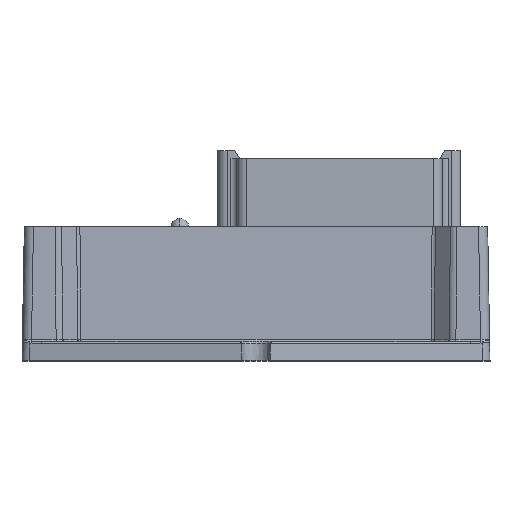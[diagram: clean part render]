
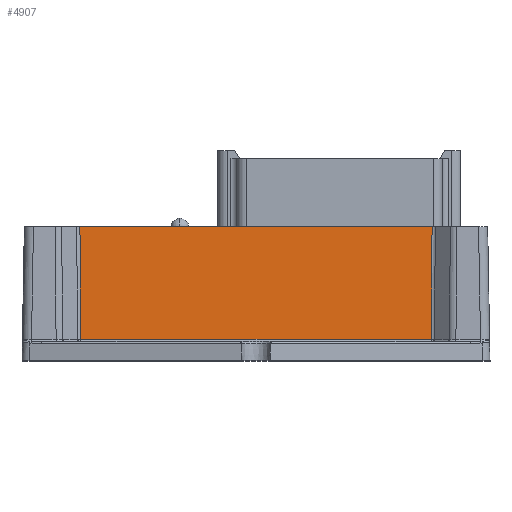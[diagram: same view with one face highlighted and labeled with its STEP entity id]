
A CAD part, top view. The second image highlights one B-rep face of the part: STEP entity #4907.
In plain terms, the highlighted planar face has unit normal (0, 0.018, 1) as drawn and (-1, 0.017, 0) by its records, which use the part's own axes.
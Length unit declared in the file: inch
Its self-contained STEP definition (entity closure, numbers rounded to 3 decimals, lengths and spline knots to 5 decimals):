
#78 = FACE_OUTER_BOUND ( 'NONE', #3216, .T. ) ;
#957 = CARTESIAN_POINT ( 'NONE',  ( -1.51964, 0.88009, 1.15794 ) ) ;
#1122 = DIRECTION ( 'NONE',  ( 0.017, 1., 0.007 ) ) ;
#1565 = ORIENTED_EDGE ( 'NONE', *, *, #16935, .T. ) ;
#2110 = ORIENTED_EDGE ( 'NONE', *, *, #10717, .T. ) ;
#2560 = DIRECTION ( 'NONE',  ( -0.017, -1., 0. ) ) ;
#3216 = EDGE_LOOP ( 'NONE', ( #1565, #5750, #16299, #2110 ) ) ;
#4160 = AXIS2_PLACEMENT_3D ( 'NONE', #16875, #4314, #2560 ) ;
#4314 = DIRECTION ( 'NONE',  ( -1., 0.017, 0. ) ) ;
#4333 = VERTEX_POINT ( 'NONE', #8217 ) ;
#4808 = DIRECTION ( 'NONE',  ( 0., 0., -1. ) ) ;
#4907 = ADVANCED_FACE ( 'NONE', ( #78 ), #5663, .T. ) ;
#5314 = EDGE_CURVE ( 'NONE', #17258, #10167, #14789, .T. ) ;
#5663 = PLANE ( 'NONE',  #4160 ) ;
#5750 = ORIENTED_EDGE ( 'NONE', *, *, #5314, .T. ) ;
#6967 = CARTESIAN_POINT ( 'NONE',  ( -1.51964, 0.88, -1.15794 ) ) ;
#8217 = CARTESIAN_POINT ( 'NONE',  ( -1.51964, 0.88, 1.15794 ) ) ;
#8273 = EDGE_CURVE ( 'NONE', #10167, #4333, #15033, .T. ) ;
#8792 = VERTEX_POINT ( 'NONE', #6967 ) ;
#9177 = LINE ( 'NONE', #16345, #12840 ) ;
#10167 = VERTEX_POINT ( 'NONE', #12350 ) ;
#10598 = VECTOR ( 'NONE', #1122, 39.37008 ) ;
#10692 = CARTESIAN_POINT ( 'NONE',  ( -1.53256, 0.13974, 0. ) ) ;
#10717 = EDGE_CURVE ( 'NONE', #4333, #8792, #11887, .T. ) ;
#11232 = VECTOR ( 'NONE', #16290, 39.37008 ) ;
#11887 = LINE ( 'NONE', #13319, #12480 ) ;
#12350 = CARTESIAN_POINT ( 'NONE',  ( -1.53256, 0.13974, 1.15259 ) ) ;
#12480 = VECTOR ( 'NONE', #4808, 39.37008 ) ;
#12840 = VECTOR ( 'NONE', #14751, 39.37008 ) ;
#13319 = CARTESIAN_POINT ( 'NONE',  ( -1.51964, 0.88, 0. ) ) ;
#14050 = CARTESIAN_POINT ( 'NONE',  ( -1.53256, 0.13974, -1.15259 ) ) ;
#14751 = DIRECTION ( 'NONE',  ( -0.017, -1., 0.007 ) ) ;
#14789 = LINE ( 'NONE', #10692, #11232 ) ;
#15033 = LINE ( 'NONE', #957, #10598 ) ;
#16290 = DIRECTION ( 'NONE',  ( 0., 0., 1. ) ) ;
#16299 = ORIENTED_EDGE ( 'NONE', *, *, #8273, .T. ) ;
#16345 = CARTESIAN_POINT ( 'NONE',  ( -1.53282, 0.12509, -1.15248 ) ) ;
#16875 = CARTESIAN_POINT ( 'NONE',  ( -1.535, 0., 0. ) ) ;
#16935 = EDGE_CURVE ( 'NONE', #8792, #17258, #9177, .T. ) ;
#17258 = VERTEX_POINT ( 'NONE', #14050 ) ;
